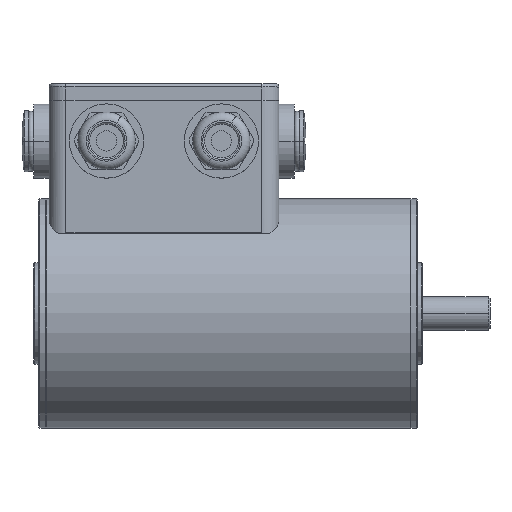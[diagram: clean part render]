
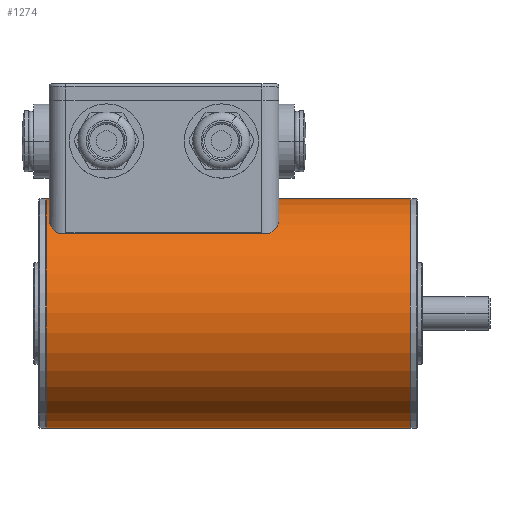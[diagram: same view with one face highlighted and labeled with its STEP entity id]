
A CAD part, top view. The second image highlights one B-rep face of the part: STEP entity #1274.
In plain terms, the highlighted cylindrical face has radius 34 mm (diameter 68 mm), a partial arc.
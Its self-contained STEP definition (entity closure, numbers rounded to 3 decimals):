
#249 = CARTESIAN_POINT ( 'NONE',  ( -2., -34., 0. ) ) ;
#685 = LINE ( 'NONE', #1022, #3245 ) ;
#1022 = CARTESIAN_POINT ( 'NONE',  ( -2., 34., 0. ) ) ;
#1274 = ADVANCED_FACE ( 'NONE', ( #2949 ), #1443, .T. ) ;
#1443 = CYLINDRICAL_SURFACE ( 'NONE', #7096, 34. ) ;
#1835 = EDGE_CURVE ( 'NONE', #5821, #12261, #685, .T. ) ;
#1838 = DIRECTION ( 'NONE',  ( 1., 0., 0. ) ) ;
#2005 = VECTOR ( 'NONE', #6954, 1000. ) ;
#2524 = EDGE_CURVE ( 'NONE', #5821, #9475, #8639, .T. ) ;
#2811 = CARTESIAN_POINT ( 'NONE',  ( -2.1, -34., 0. ) ) ;
#2938 = DIRECTION ( 'NONE',  ( 0., 1., 0. ) ) ;
#2949 = FACE_OUTER_BOUND ( 'NONE', #9437, .T. ) ;
#3245 = VECTOR ( 'NONE', #3485, 1000. ) ;
#3305 = DIRECTION ( 'NONE',  ( 1., 0., 0. ) ) ;
#3485 = DIRECTION ( 'NONE',  ( 1., 0., 0. ) ) ;
#3599 = AXIS2_PLACEMENT_3D ( 'NONE', #6785, #3910, #2938 ) ;
#3910 = DIRECTION ( 'NONE',  ( 1., 0., 0. ) ) ;
#4366 = ORIENTED_EDGE ( 'NONE', *, *, #8588, .F. ) ;
#4692 = ORIENTED_EDGE ( 'NONE', *, *, #4731, .T. ) ;
#4731 = EDGE_CURVE ( 'NONE', #9475, #11649, #6788, .T. ) ;
#5821 = VERTEX_POINT ( 'NONE', #8067 ) ;
#6785 = CARTESIAN_POINT ( 'NONE',  ( -109.9, 0., 0. ) ) ;
#6788 = LINE ( 'NONE', #249, #2005 ) ;
#6954 = DIRECTION ( 'NONE',  ( 1., 0., 0. ) ) ;
#7096 = AXIS2_PLACEMENT_3D ( 'NONE', #8015, #3305, #10005 ) ;
#7582 = CARTESIAN_POINT ( 'NONE',  ( -2.1, 0., 0. ) ) ;
#7614 = ORIENTED_EDGE ( 'NONE', *, *, #2524, .T. ) ;
#7753 = CARTESIAN_POINT ( 'NONE',  ( -109.9, -34., 0. ) ) ;
#8015 = CARTESIAN_POINT ( 'NONE',  ( -2., 0., 0. ) ) ;
#8067 = CARTESIAN_POINT ( 'NONE',  ( -109.9, 34., 0. ) ) ;
#8567 = DIRECTION ( 'NONE',  ( 0., 1., 0. ) ) ;
#8588 = EDGE_CURVE ( 'NONE', #12261, #11649, #9911, .T. ) ;
#8639 = CIRCLE ( 'NONE', #3599, 34. ) ;
#9437 = EDGE_LOOP ( 'NONE', ( #7614, #4692, #4366, #11544 ) ) ;
#9475 = VERTEX_POINT ( 'NONE', #7753 ) ;
#9911 = CIRCLE ( 'NONE', #10414, 34. ) ;
#10005 = DIRECTION ( 'NONE',  ( 0., 1., 0. ) ) ;
#10205 = CARTESIAN_POINT ( 'NONE',  ( -2.1, 34., 0. ) ) ;
#10414 = AXIS2_PLACEMENT_3D ( 'NONE', #7582, #1838, #8567 ) ;
#11544 = ORIENTED_EDGE ( 'NONE', *, *, #1835, .F. ) ;
#11649 = VERTEX_POINT ( 'NONE', #2811 ) ;
#12261 = VERTEX_POINT ( 'NONE', #10205 ) ;
